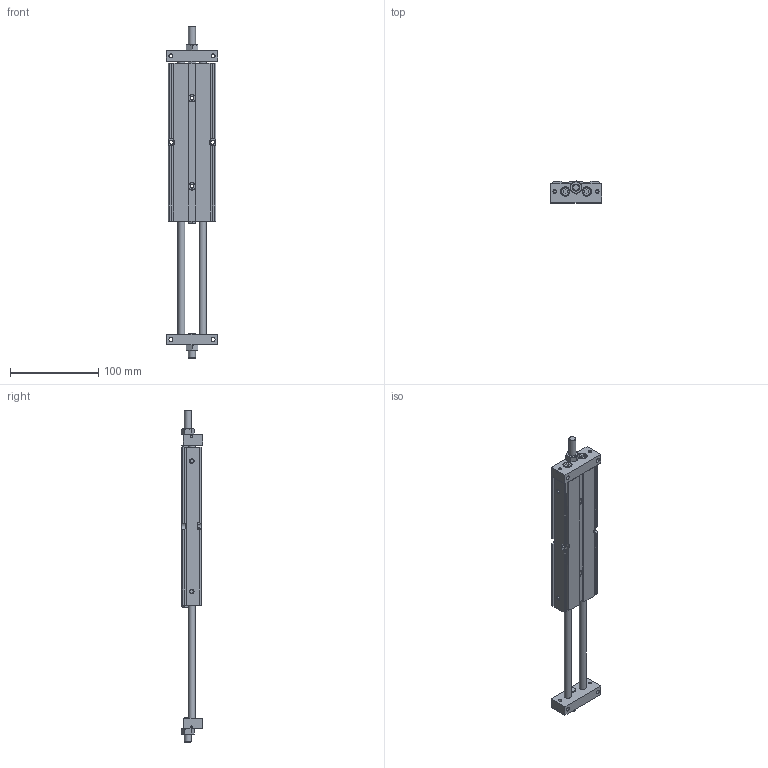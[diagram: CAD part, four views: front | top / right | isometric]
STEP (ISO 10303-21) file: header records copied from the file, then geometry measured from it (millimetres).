
FILE_DESCRIPTION((''),'2;1');
FILE_NAME('I:\3D電子目錄\氣缸\STU\STU\STU16\STU16x125.stp','2007-10-01T08:51:39',('Administrator'),(''),'Autodesk Inventor 11','Autodesk Inventor 11','');
FILE_SCHEMA(('AUTOMOTIVE_DESIGN { 1 0 10303 214 1 1 1 1 }'));
Length unit declared in the file: millimetre
Products named in the file (1): STU16
Bounding box: 58 x 24.51 x 377 mm (x, y, z)
Volume: 229278.1 mm3; surface area: 60802.1 mm2
Topology: 1 solids, 1 shells, 315 faces, 775 edges, 493 vertices
Faces by surface type: plane 161, cone 71, bspline 48, cylinder 35
Full cylindrical faces by diameter (mm): 2.459 x2, 8 x7, 8.5 x4, 9.5 x4, 18 x2, 19.2 x2
Entity records: 10033 total; most frequent: CARTESIAN_POINT 3278, ORIENTED_EDGE 1350, DIRECTION 1290, EDGE_CURVE 675, VERTEX_POINT 475, EDGE_LOOP 474, AXIS2_PLACEMENT_3D 473, VECTOR 344
